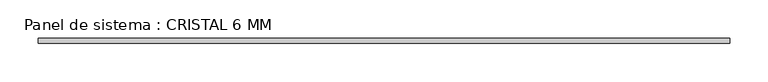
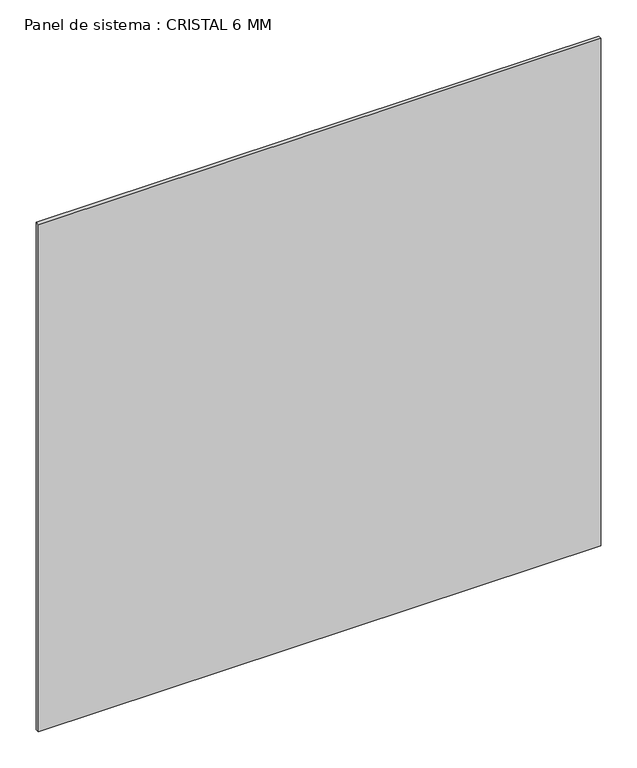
"""IFC4 building model written with IfcOpenShell, lengths in millimetres: plate geometry, Panel de sistema : CRISTAL 6 MM."""

from ifc_helpers import new_model, si_unit, origin, origin_with_axes, place, context, project, spatial, polyline, outline, extrude, source, transform, mapped, element, save


def panel_de_sistema_cristal_6_mm_519516f2(model_context):
    return source(origin(), model_context, "Body", "SweptSolid", [
        extrude(outline(polyline([(450.0, -3.0), (-450.0, -3.0), (-450.0, 3.0), (450.0, 3.0), (450.0, -3.0)])), origin_with_axes(), (0.0, 0.0, 1.0), 858.3333333),
    ])


if __name__ == "__main__":
    model = new_model("IFC4")
    model_context = context("Model", 3, world=origin())
    ifc_project = project(units=[si_unit("LENGTHUNIT", "METRE", prefix="MILLI")], contexts=[model_context])
    site = spatial("IfcSite", under=ifc_project)
    building = spatial("IfcBuilding", under=site)
    placement = place(None, origin())
    panel_de_sistema_cristal_6_mm_shape = panel_de_sistema_cristal_6_mm_519516f2(model_context)
    element("IfcPlate", 1, ObjectType="Panel de sistema : CRISTAL 6 MM", at=placement, inside=building, context=model_context, shape_type="MappedRepresentation", body=[
        mapped(panel_de_sistema_cristal_6_mm_shape, transform((0.0, 0.0, 0.0), x_axis=(1.0, 0.0, 0.0), y_axis=(0.0, 1.0, 0.0), z_axis=(0.0, 0.0, 1.0))),
    ])
    save(model, "model.ifc")
